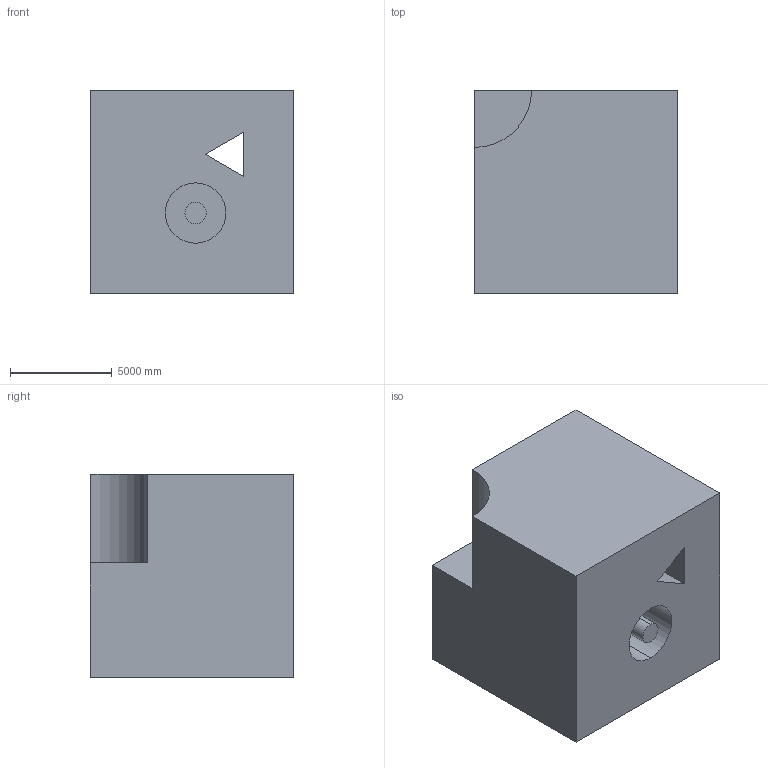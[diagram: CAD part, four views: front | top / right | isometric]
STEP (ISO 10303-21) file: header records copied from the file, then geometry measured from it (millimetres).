
FILE_DESCRIPTION (( 'STEP AP203' ), '1' );
FILE_NAME ('1286.STEP', '2022-08-18T13:34:09', ( 'user' ), ( '' ), 'SwSTEP 2.0', 'SolidWorks 2021', '' );
FILE_SCHEMA (( 'CONFIG_CONTROL_DESIGN' ));
Length unit declared in the file: centimetre
Products named in the file (1): 1286
Bounding box: 10000 x 10000 x 10000 mm (x, y, z)
Volume: 906060401031.9 mm3; surface area: 752291957.6 mm2
Topology: 1 solids, 1 shells, 17 faces, 39 edges, 26 vertices
Faces by surface type: plane 12, cylinder 5
Entity records: 564 total; most frequent: DIRECTION 85, CARTESIAN_POINT 83, ORIENTED_EDGE 78, EDGE_CURVE 39, VECTOR 29, LINE 29, AXIS2_PLACEMENT_3D 28, VERTEX_POINT 26
